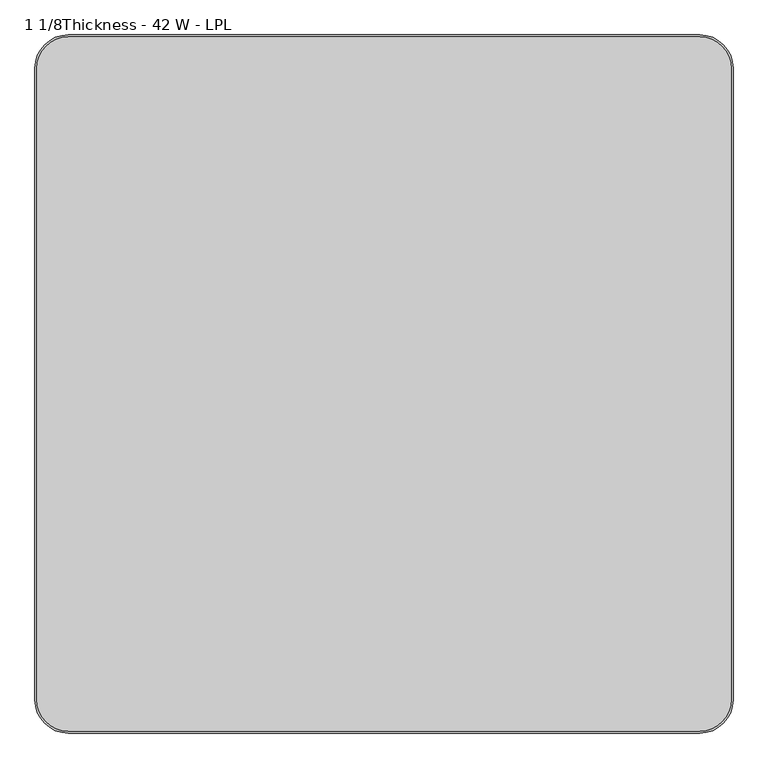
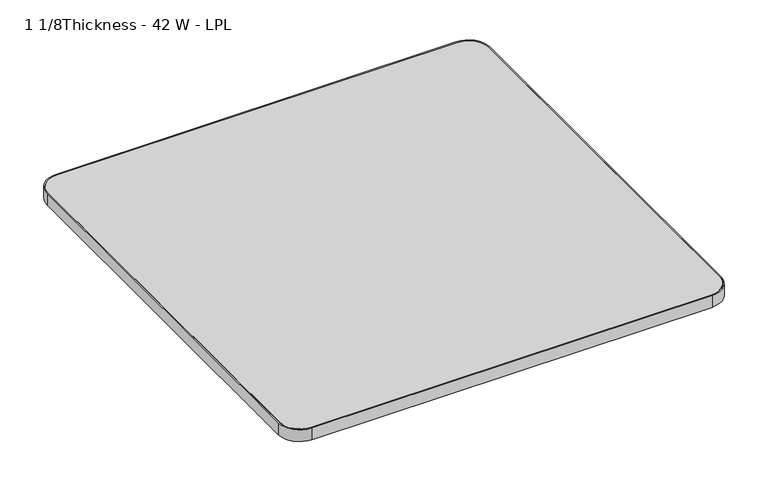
"""IFC4 building model written with IfcOpenShell, lengths in millimetres: furniture geometry, Steelcase - Groupwork - Table - Top - Square : 1 1/8Thickness - 42 W - LPL."""

from ifc_helpers import new_model, si_unit, point, frame, frame_2d, origin, place, context, project, spatial, polyline, circle_curve, trimmed, segment, composite_curve, outline, extrude, source, transform, mapped, element, save


def furniture_1_1_8thickness_42_w_lpl_af455e16(model_context):
    return source(origin(), model_context, "Body", "SweptSolid", [
        extrude(outline(composite_curve([segment(polyline([(-511.048, 530.4), (454.248, 530.4)]), True, "CONTINUOUS"), segment(trimmed(circle_curve(frame_2d((454.248, 482.648)), 47.752), [point((454.248, 530.4))], [point((502.0, 482.648))], False, "CARTESIAN"), True, "CONTINUOUS"), segment(polyline([(502.0, 482.648), (502.0, -482.648)]), True, "CONTINUOUS"), segment(trimmed(circle_curve(frame_2d((454.248, -482.648)), 47.752), [point((502.0, -482.648))], [point((454.248, -530.4))], False, "CARTESIAN"), True, "CONTINUOUS"), segment(polyline([(454.248, -530.4), (-511.048, -530.4)]), True, "CONTINUOUS"), segment(trimmed(circle_curve(frame_2d((-511.048, -482.648)), 47.752), [point((-511.048, -530.4))], [point((-558.8, -482.648))], False, "CARTESIAN"), True, "CONTINUOUS"), segment(polyline([(-558.8, -482.648), (-558.8, 482.648)]), True, "CONTINUOUS"), segment(trimmed(circle_curve(frame_2d((-511.048, 482.648)), 47.752), [point((-558.8, 482.648))], [point((-511.048, 530.4))], False, "CARTESIAN"), True, "CONTINUOUS")], self_intersect=False)), frame((0.0, 0.0, 695.579), z_axis=(0.0, 0.0, 1.0), x_axis=(1.0, 0.0, 0.0)), (0.0, 0.0, 1.0), 29.972),
        extrude(outline(composite_curve([segment(trimmed(circle_curve(frame_2d((454.2, 482.6)), 50.8), [point((454.2, 533.4))], [point((505.0, 482.6))], False, "CARTESIAN"), True, "CONTINUOUS"), segment(polyline([(505.0, 482.6), (505.0, -482.6)]), True, "CONTINUOUS"), segment(trimmed(circle_curve(frame_2d((454.2, -482.6)), 50.8), [point((505.0, -482.6))], [point((454.2, -533.4))], False, "CARTESIAN"), True, "CONTINUOUS"), segment(polyline([(454.2, -533.4), (-511.0, -533.4)]), True, "CONTINUOUS"), segment(trimmed(circle_curve(frame_2d((-511.0, -482.6)), 50.8), [point((-511.0, -533.4))], [point((-561.8, -482.6))], False, "CARTESIAN"), True, "CONTINUOUS"), segment(polyline([(-561.8, -482.6), (-561.8, 482.6)]), True, "CONTINUOUS"), segment(trimmed(circle_curve(frame_2d((-511.0, 482.6)), 50.8), [point((-561.8, 482.6))], [point((-511.0, 533.4))], False, "CARTESIAN"), True, "CONTINUOUS"), segment(polyline([(-511.0, 533.4), (454.2, 533.4)]), True, "CONTINUOUS")], self_intersect=False), holes=[composite_curve([segment(polyline([(454.248, 530.4), (-511.048, 530.4)]), True, "CONTINUOUS"), segment(trimmed(circle_curve(frame_2d((-511.048, 482.648)), 47.752), [point((-511.048, 530.4))], [point((-558.8, 482.648))], True, "CARTESIAN"), True, "CONTINUOUS"), segment(polyline([(-558.8, 482.648), (-558.8, -482.648)]), True, "CONTINUOUS"), segment(trimmed(circle_curve(frame_2d((-511.048, -482.648)), 47.752), [point((-558.8, -482.648))], [point((-511.048, -530.4))], True, "CARTESIAN"), True, "CONTINUOUS"), segment(polyline([(-511.048, -530.4), (454.248, -530.4)]), True, "CONTINUOUS"), segment(trimmed(circle_curve(frame_2d((454.248, -482.648)), 47.752), [point((454.248, -530.4))], [point((502.0, -482.648))], True, "CARTESIAN"), True, "CONTINUOUS"), segment(polyline([(502.0, -482.648), (502.0, 482.648)]), True, "CONTINUOUS"), segment(trimmed(circle_curve(frame_2d((454.248, 482.648)), 47.752), [point((502.0, 482.648))], [point((454.248, 530.4))], True, "CARTESIAN"), True, "CONTINUOUS")], self_intersect=False)]), frame((0.0, 0.0, 695.579), z_axis=(0.0, 0.0, 1.0), x_axis=(1.0, 0.0, 0.0)), (0.0, 0.0, 1.0), 29.972),
    ])


if __name__ == "__main__":
    model = new_model("IFC4")
    model_context = context("Model", 3, world=origin())
    ifc_project = project(units=[si_unit("LENGTHUNIT", "METRE", prefix="MILLI")], contexts=[model_context])
    site = spatial("IfcSite", under=ifc_project)
    building = spatial("IfcBuilding", under=site)
    placement = place(None, origin())
    furniture_1_1_8thickness_42_w_lpl_shape = furniture_1_1_8thickness_42_w_lpl_af455e16(model_context)
    element("IfcFurniture", 1, ObjectType="Steelcase - Groupwork - Table - Top - Square : 1 1/8Thickness - 42 W - LPL", at=placement, inside=building, context=model_context, shape_type="MappedRepresentation", body=[
        mapped(furniture_1_1_8thickness_42_w_lpl_shape, transform((0.0, 0.0, 0.0), x_axis=(1.0, 0.0, 0.0), y_axis=(0.0, 1.0, 0.0), z_axis=(0.0, 0.0, 1.0))),
    ])
    save(model, "model.ifc")
